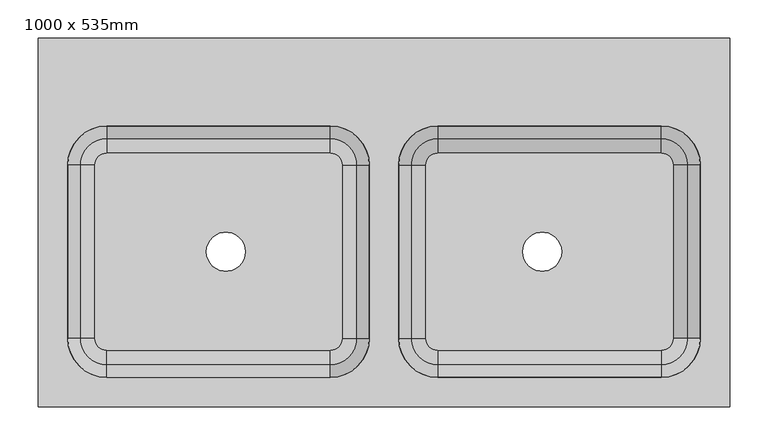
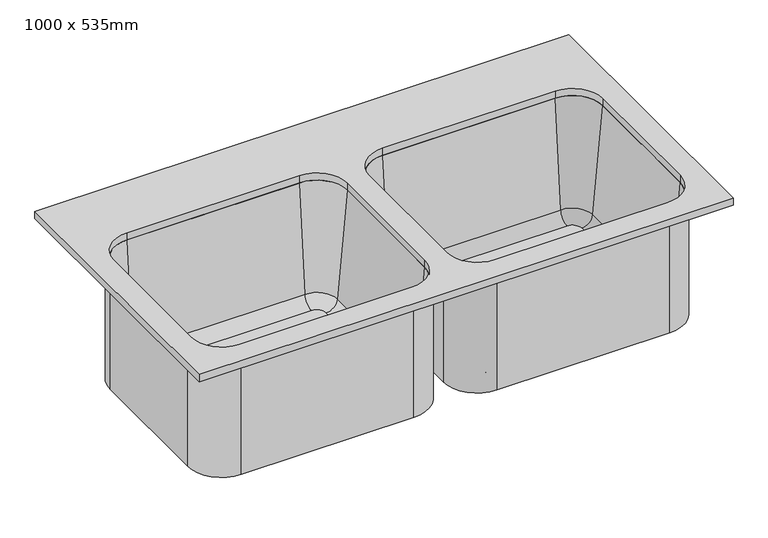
"""IFC4 building model written with IfcOpenShell, lengths in millimetres: flow terminal geometry, Lavandino  - Doppio : 1000 x 535mm."""

from ifc_helpers import new_model, si_unit, point, frame, frame_2d, origin, place, context, project, spatial, polyline, circle_curve, ellipse_curve, trimmed, segment, composite_curve, outline, extrude, source, transform, mapped, element, save
from ifc_brep_helpers import plane_surface, cylinder_surface, revolved_surface, advanced_brep


def flow_terminal_1000_x_535mm_04726dff(model_context):
    return source(origin(), model_context, "Body", "SolidModel", [
        advanced_brep(
        [(376.7892279, 92.5338193, 693.625), (85.5392406, 92.5338193, 693.625), (70.2508224, 77.2454011, 693.625), (70.2508224, -148.7545989, 693.625), (85.5392406, -164.0430171, 693.625), (376.7892406, -164.0430171, 693.625), (392.0776588, -148.7545989, 693.625), (392.0776588, 77.2454011, 693.625), (196.2392406, -35.7545989, 693.625), (247.0392406, -35.7545989, 693.625), (28.3892406, 77.2454011, 684.1), (85.5392406, 134.3954011, 684.1), (376.7892406, 134.3954011, 684.1), (433.9392406, 77.2454011, 684.1), (433.9392406, -148.7545989, 684.1), (376.7892406, -205.9045989, 684.1), (85.5392406, -205.9045989, 684.1), (28.3892406, -148.7545989, 684.1), (196.2392406, -35.7545989, 684.1), (247.0392406, -35.7545989, 684.1), (34.7392406, 77.2454011, 900.0), (85.5392406, 128.0454011, 900.0), (85.5392406, 134.3954011, 900.0), (28.3892406, 77.2454011, 900.0), (51.2733134, 77.2454011, 711.0146831), (85.5392406, 111.5113283, 711.0146831), (28.3892406, -148.7545989, 900.0), (34.7392406, -148.7545989, 900.0), (51.2733134, -148.7545989, 711.0146831), (85.5392406, -205.9045989, 900.0), (85.5392406, -199.5545989, 900.0), (85.5392406, -183.0205261, 711.0146831), (376.7892406, -205.9045989, 900.0), (376.7892406, -199.5545989, 900.0), (376.7892406, -183.0205261, 711.0146831), (433.9392406, -148.7545989, 900.0), (427.5892406, -148.7545989, 900.0), (411.0551678, -148.7545989, 711.0146831), (433.9392406, 77.2454011, 900.0), (427.5892406, 77.2454011, 900.0), (411.0551678, 77.2454011, 711.0146831), (376.7892406, 134.3954011, 900.0), (376.7892406, 128.0454011, 900.0), (376.7892406, 111.5113283, 711.0146831)],
        [
            (0, 1),
            (1, 2, circle_curve(frame((85.5392406, 77.2454011, 693.625), z_axis=(0.0, 0.0, 1.0), x_axis=(0.0, 1.0, 0.0)), 15.2884182)),
            (2, 3),
            (3, 4, circle_curve(frame((85.5392406, -148.7545989, 693.625), z_axis=(0.0, 0.0, 1.0), x_axis=(-1.0, 0.0, 0.0)), 15.2884182)),
            (4, 5),
            (5, 6, circle_curve(frame((376.7892406, -148.7545989, 693.625), z_axis=(0.0, 0.0, 1.0), x_axis=(0.0, -1.0, 0.0)), 15.2884182)),
            (6, 7),
            (7, 0, circle_curve(frame((376.7892406, 77.2454011, 693.625), z_axis=(0.0, 0.0, 1.0), x_axis=(1.0, 0.0, 0.0)), 15.2884182)),
            (8, 9, circle_curve(frame((221.6392406, -35.7545989, 693.625), z_axis=(0.0, 0.0, -1.0), x_axis=(1.0, 0.0, 0.0)), 25.4)),
            (9, 8, circle_curve(frame((221.6392406, -35.7545989, 693.625), z_axis=(0.0, 0.0, -1.0), x_axis=(1.0, 0.0, 0.0)), 25.4)),
            (10, 11, circle_curve(frame((85.5392406, 77.2454011, 684.1), z_axis=(0.0, 0.0, -1.0), x_axis=(0.0, 1.0, 0.0)), 57.15)),
            (11, 12),
            (12, 13, circle_curve(frame((376.7892406, 77.2454011, 684.1), z_axis=(0.0, 0.0, -1.0), x_axis=(1.0, 0.0, 0.0)), 57.15)),
            (13, 14),
            (14, 15, circle_curve(frame((376.7892406, -148.7545989, 684.1), z_axis=(0.0, 0.0, -1.0), x_axis=(0.0, -1.0, 0.0)), 57.15)),
            (15, 16),
            (16, 17, circle_curve(frame((85.5392406, -148.7545989, 684.1), z_axis=(0.0, 0.0, -1.0), x_axis=(-1.0, 0.0, 0.0)), 57.15)),
            (17, 10),
            (18, 19, circle_curve(frame((221.6392406, -35.7545989, 684.1), z_axis=(0.0, 0.0, 1.0), x_axis=(1.0, 0.0, 0.0)), 25.4)),
            (19, 18, circle_curve(frame((221.6392406, -35.7545989, 684.1), z_axis=(0.0, 0.0, 1.0), x_axis=(1.0, 0.0, 0.0)), 25.4)),
            (8, 18),
            (19, 9),
            (20, 21, circle_curve(frame((85.5392406, 77.2454011, 900.0), z_axis=(0.0, 0.0, -1.0), x_axis=(0.0, 1.0, 0.0)), 50.8)),
            (21, 22),
            (22, 23, circle_curve(frame((85.5392406, 77.2454011, 900.0), z_axis=(0.0, 0.0, 1.0), x_axis=(0.0, 1.0, 0.0)), 57.15)),
            (23, 20),
            (20, 24),
            (24, 25, circle_curve(frame((85.5392406, 77.2454011, 711.0146831), z_axis=(0.0, 0.0, -1.0), x_axis=(0.0, 1.0, 0.0)), 34.2659272)),
            (25, 21),
            (24, 2, circle_curve(frame((70.2508224, 77.2454011, 712.675), z_axis=(0.0, -1.0, 0.0), x_axis=(1.0, 0.0, 0.0)), 19.05)),
            (1, 25, circle_curve(frame((85.5392406, 92.5338193, 712.675), z_axis=(1.0, 0.0, 0.0), x_axis=(0.0, -1.0, 0.0)), 19.05)),
            (22, 11),
            (10, 23),
            (23, 26),
            (26, 27),
            (27, 20),
            (27, 28),
            (28, 24),
            (28, 3, circle_curve(frame((70.2508224, -148.7545989, 712.675), z_axis=(0.0, -1.0, 0.0), x_axis=(1.0, 0.0, 0.0)), 19.05)),
            (17, 26),
            (26, 29, circle_curve(frame((85.5392406, -148.7545989, 900.0), z_axis=(0.0, 0.0, 1.0), x_axis=(-1.0, 0.0, 0.0)), 57.15)),
            (29, 30),
            (30, 27, circle_curve(frame((85.5392406, -148.7545989, 900.0), z_axis=(0.0, 0.0, -1.0), x_axis=(-1.0, 0.0, 0.0)), 50.8)),
            (30, 31),
            (31, 28, circle_curve(frame((85.5392406, -148.7545989, 711.0146831), z_axis=(0.0, 0.0, -1.0), x_axis=(-1.0, 0.0, 0.0)), 34.2659272)),
            (31, 4, circle_curve(frame((85.5392406, -164.0430171, 712.675), z_axis=(1.0, 0.0, 0.0), x_axis=(0.0, 1.0, 0.0)), 19.05)),
            (16, 29),
            (29, 32),
            (32, 33),
            (33, 30),
            (33, 34),
            (34, 31),
            (34, 5, circle_curve(frame((376.7892406, -164.0430171, 712.675), z_axis=(1.0, 0.0, 0.0), x_axis=(0.0, 1.0, 0.0)), 19.05)),
            (15, 32),
            (32, 35, circle_curve(frame((376.7892406, -148.7545989, 900.0), z_axis=(0.0, 0.0, 1.0), x_axis=(0.0, -1.0, 0.0)), 57.15)),
            (35, 36),
            (36, 33, circle_curve(frame((376.7892406, -148.7545989, 900.0), z_axis=(0.0, 0.0, -1.0), x_axis=(0.0, -1.0, 0.0)), 50.8)),
            (36, 37),
            (37, 34, circle_curve(frame((376.7892406, -148.7545989, 711.0146831), z_axis=(0.0, 0.0, -1.0), x_axis=(0.0, -1.0, 0.0)), 34.2659272)),
            (37, 6, circle_curve(frame((392.0776588, -148.7545989, 712.675), z_axis=(0.0, 1.0, 0.0), x_axis=(-1.0, 0.0, 0.0)), 19.05)),
            (14, 35),
            (35, 38),
            (38, 39),
            (39, 36),
            (39, 40),
            (40, 37),
            (40, 7, circle_curve(frame((392.0776588, 77.2454011, 712.675), z_axis=(0.0, 1.0, 0.0), x_axis=(-1.0, 0.0, 0.0)), 19.05)),
            (13, 38),
            (38, 41, circle_curve(frame((376.7892406, 77.2454011, 900.0), z_axis=(0.0, 0.0, 1.0), x_axis=(1.0, 0.0, 0.0)), 57.15)),
            (41, 42),
            (42, 39, circle_curve(frame((376.7892406, 77.2454011, 900.0), z_axis=(0.0, 0.0, -1.0), x_axis=(1.0, 0.0, 0.0)), 50.8)),
            (42, 43),
            (43, 40, circle_curve(frame((376.7892406, 77.2454011, 711.0146831), z_axis=(0.0, 0.0, -1.0), x_axis=(1.0, 0.0, 0.0)), 34.2659272)),
            (43, 0, circle_curve(frame((376.7892406, 92.5338193, 712.675), z_axis=(-1.0, 0.0, 0.0), x_axis=(0.0, -1.0, 0.0)), 19.05)),
            (12, 41),
            (21, 42),
            (41, 22),
            (25, 43),
        ],
        [
            plane_surface(frame((85.5392406, 92.5338193, 693.625), z_axis=(0.0, 0.0, 1.0), x_axis=(-1.0, 0.0, 0.0))),
            plane_surface(frame((85.5392406, 92.5338193, 684.1), z_axis=(0.0, 0.0, -1.0), x_axis=(1.0, 0.0, 0.0))),
            revolved_surface(polyline([(247.0392406, -35.7545989, 684.1), (247.0392406, -35.7545989, 693.625)]), (221.6392406, -35.7545989, 0.0), (0.0, 0.0, -1.0)),
            plane_surface(frame((85.5392406, 77.2454011, 900.0), z_axis=(0.0, 0.0, 1.0), x_axis=(0.0, 1.0, 0.0))),
            revolved_surface(polyline([(85.5392406, 128.0454011, 900.0), (85.5392406, 111.5113283, 711.0146831)]), (85.5392406, 77.2454011, 0.0), (0.0, 0.0, 1.0)),
            revolved_surface(trimmed(ellipse_curve(frame((85.5392406, 92.5338193, 712.675), z_axis=(-1.0, 0.0, 0.0), x_axis=(0.0, -1.0, 0.0)), 19.05, 19.05), [point((85.5392406, 111.5113283, 711.0146831))], [point((85.5392406, 92.5338193, 693.625))], True, "CARTESIAN"), (85.5392406, 77.2454011, 0.0), (0.0, 0.0, 1.0)),
            cylinder_surface(frame((85.5392406, 77.2454011, 0.0), z_axis=(0.0, 0.0, 1.0), x_axis=(0.0, 1.0, 0.0)), 57.15),
            plane_surface(frame((28.3892406, 77.2454011, 900.0), z_axis=(0.0, 0.0, 1.0), x_axis=(0.0, -1.0, 0.0))),
            plane_surface(frame((34.7392406, 77.2454011, 900.0), z_axis=(0.996194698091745, 0.0, 0.08715574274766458), x_axis=(0.0, -1.0, 0.0))),
            revolved_surface(polyline([(89.3008224, -148.75459890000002, 712.675), (89.3008224, 77.2454011, 712.675)]), (70.2508224, 77.2454011, 712.675), (0.0, -1.0, 0.0)),
            plane_surface(frame((28.3892406, 77.2454011, 684.1), z_axis=(-1.0, 0.0, 0.0), x_axis=(0.0, -1.0, 0.0))),
            plane_surface(frame((85.5392406, -148.7545989, 900.0), z_axis=(0.0, 0.0, 1.0), x_axis=(-1.0, 0.0, 0.0))),
            revolved_surface(polyline([(34.7392406, -148.7545989, 900.0), (51.2733134, -148.7545989, 711.0146831)]), (85.5392406, -148.7545989, 0.0), (0.0, 0.0, 1.0)),
            revolved_surface(trimmed(ellipse_curve(frame((70.2508224, -148.7545989, 712.675), z_axis=(0.0, -1.0, 0.0), x_axis=(1.0, 0.0, 0.0)), 19.05, 19.05), [point((51.2733134, -148.7545989, 711.0146831))], [point((70.2508224, -148.7545989, 693.625))], True, "CARTESIAN"), (85.5392406, -148.7545989, 0.0), (0.0, 0.0, 1.0)),
            cylinder_surface(frame((85.5392406, -148.7545989, 0.0), z_axis=(0.0, 0.0, 1.0), x_axis=(-1.0, 0.0, 0.0)), 57.15),
            plane_surface(frame((85.5392406, -205.9045989, 900.0), z_axis=(0.0, 0.0, 1.0), x_axis=(1.0, 0.0, 0.0))),
            plane_surface(frame((85.5392406, -199.5545989, 900.0), z_axis=(0.0, 0.996194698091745, 0.08715574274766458), x_axis=(1.0, 0.0, 0.0))),
            revolved_surface(polyline([(376.78924059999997, -144.99301709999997, 712.675), (85.5392406, -144.99301709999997, 712.675)]), (85.5392406, -164.0430171, 712.675), (1.0, 0.0, 0.0)),
            plane_surface(frame((85.5392406, -205.9045989, 684.1), z_axis=(0.0, -1.0, 0.0), x_axis=(1.0, 0.0, 0.0))),
            plane_surface(frame((376.7892406, -148.7545989, 900.0), z_axis=(0.0, 0.0, 1.0), x_axis=(0.0, -1.0, 0.0))),
            revolved_surface(polyline([(376.7892406, -199.5545989, 900.0), (376.7892406, -183.0205261, 711.0146831)]), (376.7892406, -148.7545989, 0.0), (0.0, 0.0, 1.0)),
            revolved_surface(trimmed(ellipse_curve(frame((376.7892406, -164.0430171, 712.675), z_axis=(1.0, 0.0, 0.0), x_axis=(0.0, 1.0, 0.0)), 19.05, 19.05), [point((376.7892406, -183.0205261, 711.0146831))], [point((376.7892406, -164.0430171, 693.625))], True, "CARTESIAN"), (376.7892406, -148.7545989, 0.0), (0.0, 0.0, 1.0)),
            cylinder_surface(frame((376.7892406, -148.7545989, 0.0), z_axis=(0.0, 0.0, 1.0), x_axis=(0.0, -1.0, 0.0)), 57.15),
            plane_surface(frame((433.9392406, -148.7545989, 900.0), z_axis=(0.0, 0.0, 1.0), x_axis=(0.0, 1.0, 0.0))),
            plane_surface(frame((427.5892406, -148.7545989, 900.0), z_axis=(-0.996194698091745, 0.0, 0.08715574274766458), x_axis=(0.0, 1.0, 0.0))),
            revolved_surface(polyline([(373.0276588, 77.24540110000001, 712.675), (373.0276588, -148.7545989, 712.675)]), (392.0776588, -148.7545989, 712.675), (0.0, 1.0, 0.0)),
            plane_surface(frame((433.9392406, -148.7545989, 684.1), z_axis=(1.0, 0.0, 0.0), x_axis=(0.0, 1.0, 0.0))),
            plane_surface(frame((376.7892406, 77.2454011, 900.0), z_axis=(0.0, 0.0, 1.0), x_axis=(1.0, 0.0, 0.0))),
            revolved_surface(polyline([(427.5892406, 77.2454011, 900.0), (411.0551678, 77.2454011, 711.0146831)]), (376.7892406, 77.2454011, 0.0), (0.0, 0.0, 1.0)),
            revolved_surface(trimmed(ellipse_curve(frame((392.0776588, 77.2454011, 712.675), z_axis=(0.0, 1.0, 0.0), x_axis=(-1.0, 0.0, 0.0)), 19.05, 19.05), [point((411.0551678, 77.2454011, 711.0146831))], [point((392.0776588, 77.2454011, 693.625))], True, "CARTESIAN"), (376.7892406, 77.2454011, 0.0), (0.0, 0.0, 1.0)),
            cylinder_surface(frame((376.7892406, 77.2454011, 0.0), z_axis=(0.0, 0.0, 1.0), x_axis=(1.0, 0.0, 0.0)), 57.15),
            plane_surface(frame((376.7892406, 134.3954011, 900.0), z_axis=(0.0, 0.0, 1.0), x_axis=(-1.0, 0.0, 0.0))),
            plane_surface(frame((376.7892406, 128.0454011, 900.0), z_axis=(0.0, -0.996194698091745, 0.08715574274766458), x_axis=(-1.0, 0.0, 0.0))),
            revolved_surface(polyline([(85.53924060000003, 73.48381930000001, 712.675), (376.7892406, 73.48381930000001, 712.675)]), (376.7892406, 92.5338193, 712.675), (-1.0, 0.0, 0.0)),
            plane_surface(frame((376.7892406, 134.3954011, 684.1), z_axis=(0.0, 1.0, 0.0), x_axis=(-1.0, 0.0, 0.0))),
        ],
        [
            (0, [[1, 2, 3, 4, 5, 6, 7, 8], [9, 10]]),
            (1, [[11, 12, 13, 14, 15, 16, 17, 18], [19, 20]]),
            (2, [[-9, 21, -20, 22]]),
            (2, [[-10, -22, -19, -21]]),
            (3, [[23, 24, 25, 26]]),
            (4, [[-23, 27, 28, 29]]),
            (5, [[-28, 30, -2, 31]]),
            (6, [[-25, 32, -11, 33]]),
            (7, [[-26, 34, 35, 36]]),
            (8, [[-27, -36, 37, 38]]),
            (9, [[-30, -38, 39, -3]]),
            (10, [[-33, -18, 40, -34]]),
            (11, [[-35, 41, 42, 43]]),
            (12, [[-37, -43, 44, 45]]),
            (13, [[-39, -45, 46, -4]]),
            (14, [[-40, -17, 47, -41]]),
            (15, [[-42, 48, 49, 50]]),
            (16, [[-44, -50, 51, 52]]),
            (17, [[-46, -52, 53, -5]]),
            (18, [[-47, -16, 54, -48]]),
            (19, [[-49, 55, 56, 57]]),
            (20, [[-51, -57, 58, 59]]),
            (21, [[-53, -59, 60, -6]]),
            (22, [[-54, -15, 61, -55]]),
            (23, [[-56, 62, 63, 64]]),
            (24, [[-58, -64, 65, 66]]),
            (25, [[-60, -66, 67, -7]]),
            (26, [[-61, -14, 68, -62]]),
            (27, [[-63, 69, 70, 71]]),
            (28, [[-65, -71, 72, 73]]),
            (29, [[-67, -73, 74, -8]]),
            (30, [[-68, -13, 75, -69]]),
            (31, [[-24, 76, -70, 77]]),
            (32, [[-29, 78, -72, -76]]),
            (33, [[-31, -1, -74, -78]]),
            (34, [[-32, -77, -75, -12]]),
        ],
    ),
        advanced_brep(
        [(-38.8723412, 77.2454011, 693.625), (-54.1607594, 92.5338193, 693.625), (-345.4107594, 92.5338193, 693.625), (-360.6991776, 77.2454011, 693.625), (-360.6991776, -148.7545989, 693.625), (-345.4107594, -164.0430171, 693.625), (-54.1607594, -164.0430171, 693.625), (-38.8723412, -148.7545989, 693.625), (-215.6607594, -35.7545989, 693.625), (-164.8607594, -35.7545989, 693.625), (-402.5607594, 77.2454011, 684.1), (-345.4107594, 134.3954011, 684.1), (-54.1607594, 134.3954011, 684.1), (2.9892406, 77.2454011, 684.1), (2.9892406, -148.7545989, 684.1), (-54.1607594, -205.9045989, 684.1), (-345.4107594, -205.9045989, 684.1), (-402.5607594, -148.7545989, 684.1), (-215.6607594, -35.7545989, 684.1), (-164.8607594, -35.7545989, 684.1), (-54.1607594, 134.3954011, 900.0), (2.9892406, 77.2454011, 900.0), (-19.8948322, 77.2454011, 711.0146831), (-54.1607594, 111.5113283, 711.0146831), (-3.3607594, 77.2454011, 900.0), (-54.1607594, 128.0454011, 900.0), (2.9892406, -148.7545989, 900.0), (-19.8948322, -148.7545989, 711.0146831), (-3.3607594, -148.7545989, 900.0), (-54.1607594, -205.9045989, 900.0), (-54.1607594, -183.0205261, 711.0146831), (-54.1607594, -199.5545989, 900.0), (-345.4107594, -205.9045989, 900.0), (-345.4107594, -183.0205261, 711.0146831), (-345.4107594, -199.5545989, 900.0), (-402.5607594, -148.7545989, 900.0), (-379.6766866, -148.7545989, 711.0146831), (-396.2107594, -148.7545989, 900.0), (-402.5607594, 77.2454011, 900.0), (-379.6766866, 77.2454011, 711.0146831), (-396.2107594, 77.2454011, 900.0), (-345.4107594, 134.3954011, 900.0), (-345.4107594, 111.5113283, 711.0146831), (-345.4107594, 128.0454011, 900.0)],
        [
            (0, 1, circle_curve(frame((-54.1607594, 77.2454011, 693.625), z_axis=(0.0, 0.0, 1.0), x_axis=(0.0, 1.0, 0.0)), 15.2884182)),
            (1, 2),
            (2, 3, circle_curve(frame((-345.4107594, 77.2454011, 693.625), z_axis=(0.0, 0.0, 1.0), x_axis=(-1.0, 0.0, 0.0)), 15.2884182)),
            (3, 4),
            (4, 5, circle_curve(frame((-345.4107594, -148.7545989, 693.625), z_axis=(0.0, 0.0, 1.0), x_axis=(0.0, -1.0, 0.0)), 15.2884182)),
            (5, 6),
            (6, 7, circle_curve(frame((-54.1607594, -148.7545989, 693.625), z_axis=(0.0, 0.0, 1.0), x_axis=(1.0, 0.0, 0.0)), 15.2884182)),
            (7, 0),
            (8, 9, circle_curve(frame((-190.2607594, -35.7545989, 693.625), z_axis=(0.0, 0.0, -1.0), x_axis=(1.0, 0.0, 0.0)), 25.4)),
            (9, 8, circle_curve(frame((-190.2607594, -35.7545989, 693.625), z_axis=(0.0, 0.0, -1.0), x_axis=(1.0, 0.0, 0.0)), 25.4)),
            (10, 11, circle_curve(frame((-345.4107594, 77.2454011, 684.1), z_axis=(0.0, 0.0, -1.0), x_axis=(-1.0, 0.0, 0.0)), 57.15)),
            (11, 12),
            (12, 13, circle_curve(frame((-54.1607594, 77.2454011, 684.1), z_axis=(0.0, 0.0, -1.0), x_axis=(0.0, 1.0, 0.0)), 57.15)),
            (13, 14),
            (14, 15, circle_curve(frame((-54.1607594, -148.7545989, 684.1), z_axis=(0.0, 0.0, -1.0), x_axis=(1.0, 0.0, 0.0)), 57.15)),
            (15, 16),
            (16, 17, circle_curve(frame((-345.4107594, -148.7545989, 684.1), z_axis=(0.0, 0.0, -1.0), x_axis=(0.0, -1.0, 0.0)), 57.15)),
            (17, 10),
            (18, 19, circle_curve(frame((-190.2607594, -35.7545989, 684.1), z_axis=(0.0, 0.0, 1.0), x_axis=(1.0, 0.0, 0.0)), 25.4)),
            (19, 18, circle_curve(frame((-190.2607594, -35.7545989, 684.1), z_axis=(0.0, 0.0, 1.0), x_axis=(1.0, 0.0, 0.0)), 25.4)),
            (8, 18),
            (19, 9),
            (12, 20),
            (20, 21, circle_curve(frame((-54.1607594, 77.2454011, 900.0), z_axis=(0.0, 0.0, -1.0), x_axis=(0.0, 1.0, 0.0)), 57.15)),
            (21, 13),
            (0, 22, circle_curve(frame((-38.8723412, 77.2454011, 712.675), z_axis=(0.0, -1.0, 0.0), x_axis=(1.0, 0.0, 0.0)), 19.05)),
            (22, 23, circle_curve(frame((-54.1607594, 77.2454011, 711.0146831), z_axis=(0.0, 0.0, 1.0), x_axis=(0.0, 1.0, 0.0)), 34.2659272)),
            (23, 1, circle_curve(frame((-54.1607594, 92.5338193, 712.675), z_axis=(-1.0, 0.0, 0.0), x_axis=(0.0, 1.0, 0.0)), 19.05)),
            (22, 24),
            (24, 25, circle_curve(frame((-54.1607594, 77.2454011, 900.0), z_axis=(0.0, 0.0, 1.0), x_axis=(0.0, 1.0, 0.0)), 50.8)),
            (25, 23),
            (20, 25),
            (24, 21),
            (21, 26),
            (26, 14),
            (7, 27, circle_curve(frame((-38.8723412, -148.7545989, 712.675), z_axis=(0.0, -1.0, 0.0), x_axis=(1.0, 0.0, 0.0)), 19.05)),
            (27, 22),
            (27, 28),
            (28, 24),
            (28, 26),
            (26, 29, circle_curve(frame((-54.1607594, -148.7545989, 900.0), z_axis=(0.0, 0.0, -1.0), x_axis=(1.0, 0.0, 0.0)), 57.15)),
            (29, 15),
            (6, 30, circle_curve(frame((-54.1607594, -164.0430171, 712.675), z_axis=(-1.0, 0.0, 0.0), x_axis=(0.0, -1.0, 0.0)), 19.05)),
            (30, 27, circle_curve(frame((-54.1607594, -148.7545989, 711.0146831), z_axis=(0.0, 0.0, 1.0), x_axis=(1.0, 0.0, 0.0)), 34.2659272)),
            (30, 31),
            (31, 28, circle_curve(frame((-54.1607594, -148.7545989, 900.0), z_axis=(0.0, 0.0, 1.0), x_axis=(1.0, 0.0, 0.0)), 50.8)),
            (31, 29),
            (29, 32),
            (32, 16),
            (5, 33, circle_curve(frame((-345.4107594, -164.0430171, 712.675), z_axis=(-1.0, 0.0, 0.0), x_axis=(0.0, -1.0, 0.0)), 19.05)),
            (33, 30),
            (33, 34),
            (34, 31),
            (34, 32),
            (32, 35, circle_curve(frame((-345.4107594, -148.7545989, 900.0), z_axis=(0.0, 0.0, -1.0), x_axis=(0.0, -1.0, 0.0)), 57.15)),
            (35, 17),
            (4, 36, circle_curve(frame((-360.6991776, -148.7545989, 712.675), z_axis=(0.0, 1.0, 0.0), x_axis=(-1.0, 0.0, 0.0)), 19.05)),
            (36, 33, circle_curve(frame((-345.4107594, -148.7545989, 711.0146831), z_axis=(0.0, 0.0, 1.0), x_axis=(0.0, -1.0, 0.0)), 34.2659272)),
            (36, 37),
            (37, 34, circle_curve(frame((-345.4107594, -148.7545989, 900.0), z_axis=(0.0, 0.0, 1.0), x_axis=(0.0, -1.0, 0.0)), 50.8)),
            (37, 35),
            (35, 38),
            (38, 10),
            (3, 39, circle_curve(frame((-360.6991776, 77.2454011, 712.675), z_axis=(0.0, 1.0, 0.0), x_axis=(-1.0, 0.0, 0.0)), 19.05)),
            (39, 36),
            (39, 40),
            (40, 37),
            (40, 38),
            (38, 41, circle_curve(frame((-345.4107594, 77.2454011, 900.0), z_axis=(0.0, 0.0, -1.0), x_axis=(-1.0, 0.0, 0.0)), 57.15)),
            (41, 11),
            (2, 42, circle_curve(frame((-345.4107594, 92.5338193, 712.675), z_axis=(1.0, 0.0, 0.0), x_axis=(0.0, 1.0, 0.0)), 19.05)),
            (42, 39, circle_curve(frame((-345.4107594, 77.2454011, 711.0146831), z_axis=(0.0, 0.0, 1.0), x_axis=(-1.0, 0.0, 0.0)), 34.2659272)),
            (42, 43),
            (43, 40, circle_curve(frame((-345.4107594, 77.2454011, 900.0), z_axis=(0.0, 0.0, 1.0), x_axis=(-1.0, 0.0, 0.0)), 50.8)),
            (43, 41),
            (41, 20),
            (23, 42),
            (25, 43),
        ],
        [
            plane_surface(frame((-345.4107594, 89.9454011, 693.625), z_axis=(0.0, 0.0, 1.0), x_axis=(-1.0, 0.0, 0.0))),
            plane_surface(frame((-345.4107594, 89.9454011, 684.1), z_axis=(0.0, 0.0, -1.0), x_axis=(1.0, 0.0, 0.0))),
            revolved_surface(polyline([(-164.8607594, -35.7545989, 684.1), (-164.8607594, -35.7545989, 693.625)]), (-190.2607594, -35.7545989, 0.0), (0.0, 0.0, -1.0)),
            cylinder_surface(frame((-54.1607594, 77.2454011, 0.0), z_axis=(0.0, 0.0, -1.0), x_axis=(0.0, 1.0, 0.0)), 57.15),
            revolved_surface(trimmed(ellipse_curve(frame((-54.1607594, 92.5338193, 712.675), z_axis=(1.0, 0.0, 0.0), x_axis=(0.0, 1.0, 0.0)), 19.05, 19.05), [point((-54.1607594, 92.5338193, 693.625))], [point((-54.1607594, 111.5113283, 711.0146831))], True, "CARTESIAN"), (-54.1607594, 77.2454011, 0.0), (0.0, 0.0, -1.0)),
            revolved_surface(polyline([(-54.1607594, 111.5113283, 711.0146831), (-54.1607594, 128.0454011, 900.0)]), (-54.1607594, 77.2454011, 0.0), (0.0, 0.0, -1.0)),
            plane_surface(frame((-54.1607594, 77.2454011, 900.0), z_axis=(0.0, 0.0, 1.0), x_axis=(0.0, 1.0, 0.0))),
            plane_surface(frame((2.9892406, 77.2454011, 900.0), z_axis=(1.0, 0.0, 0.0), x_axis=(0.0, -1.0, 0.0))),
            revolved_surface(polyline([(-19.8223412, -148.75459890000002, 712.675), (-19.8223412, 77.2454011, 712.675)]), (-38.8723412, 77.2454011, 712.675), (0.0, -1.0, 0.0)),
            plane_surface(frame((-19.8948322, 77.2454011, 711.0146831), z_axis=(-0.996194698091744, 0.0, 0.08715574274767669), x_axis=(0.0, -1.0, 0.0))),
            plane_surface(frame((-3.3607594, 77.2454011, 900.0), z_axis=(0.0, 0.0, 1.0), x_axis=(0.0, -1.0, 0.0))),
            cylinder_surface(frame((-54.1607594, -148.7545989, 0.0), z_axis=(0.0, 0.0, -1.0), x_axis=(1.0, 0.0, 0.0)), 57.15),
            revolved_surface(trimmed(ellipse_curve(frame((-38.8723412, -148.7545989, 712.675), z_axis=(0.0, -1.0, 0.0), x_axis=(1.0, 0.0, 0.0)), 19.05, 19.05), [point((-38.8723412, -148.7545989, 693.625))], [point((-19.8948322, -148.7545989, 711.0146831))], True, "CARTESIAN"), (-54.1607594, -148.7545989, 0.0), (0.0, 0.0, -1.0)),
            revolved_surface(polyline([(-19.8948322, -148.7545989, 711.0146831), (-3.3607594, -148.7545989, 900.0)]), (-54.1607594, -148.7545989, 0.0), (0.0, 0.0, -1.0)),
            plane_surface(frame((-54.1607594, -148.7545989, 900.0), z_axis=(0.0, 0.0, 1.0), x_axis=(1.0, 0.0, 0.0))),
            plane_surface(frame((-54.1607594, -205.9045989, 900.0), z_axis=(0.0, -1.0, 0.0), x_axis=(-1.0, 0.0, 0.0))),
            revolved_surface(polyline([(-345.4107594, -183.0930171, 712.675), (-54.1607594, -183.0930171, 712.675)]), (-54.1607594, -164.0430171, 712.675), (-1.0, 0.0, 0.0)),
            plane_surface(frame((-54.1607594, -183.0205261, 711.0146831), z_axis=(0.0, 0.996194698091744, 0.08715574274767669), x_axis=(-1.0, 0.0, 0.0))),
            plane_surface(frame((-54.1607594, -199.5545989, 900.0), z_axis=(0.0, 0.0, 1.0), x_axis=(-1.0, 0.0, 0.0))),
            cylinder_surface(frame((-345.4107594, -148.7545989, 0.0), z_axis=(0.0, 0.0, -1.0), x_axis=(0.0, -1.0, 0.0)), 57.15),
            revolved_surface(trimmed(ellipse_curve(frame((-345.4107594, -164.0430171, 712.675), z_axis=(-1.0, 0.0, 0.0), x_axis=(0.0, -1.0, 0.0)), 19.05, 19.05), [point((-345.4107594, -164.0430171, 693.625))], [point((-345.4107594, -183.0205261, 711.0146831))], True, "CARTESIAN"), (-345.4107594, -148.7545989, 0.0), (0.0, 0.0, -1.0)),
            revolved_surface(polyline([(-345.4107594, -183.0205261, 711.0146831), (-345.4107594, -199.5545989, 900.0)]), (-345.4107594, -148.7545989, 0.0), (0.0, 0.0, -1.0)),
            plane_surface(frame((-345.4107594, -148.7545989, 900.0), z_axis=(0.0, 0.0, 1.0), x_axis=(0.0, -1.0, 0.0))),
            plane_surface(frame((-402.5607594, -148.7545989, 900.0), z_axis=(-1.0, 0.0, 0.0), x_axis=(0.0, 1.0, 0.0))),
            revolved_surface(polyline([(-379.7491776, 77.24540110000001, 712.675), (-379.7491776, -148.7545989, 712.675)]), (-360.6991776, -148.7545989, 712.675), (0.0, 1.0, 0.0)),
            plane_surface(frame((-379.6766866, -148.7545989, 711.0146831), z_axis=(0.996194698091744, 0.0, 0.08715574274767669), x_axis=(0.0, 1.0, 0.0))),
            plane_surface(frame((-396.2107594, -148.7545989, 900.0), z_axis=(0.0, 0.0, 1.0), x_axis=(0.0, 1.0, 0.0))),
            cylinder_surface(frame((-345.4107594, 77.2454011, 0.0), z_axis=(0.0, 0.0, -1.0), x_axis=(-1.0, 0.0, 0.0)), 57.15),
            revolved_surface(trimmed(ellipse_curve(frame((-360.6991776, 77.2454011, 712.675), z_axis=(0.0, 1.0, 0.0), x_axis=(-1.0, 0.0, 0.0)), 19.05, 19.05), [point((-360.6991776, 77.2454011, 693.625))], [point((-379.6766866, 77.2454011, 711.0146831))], True, "CARTESIAN"), (-345.4107594, 77.2454011, 0.0), (0.0, 0.0, -1.0)),
            revolved_surface(polyline([(-379.6766866, 77.2454011, 711.0146831), (-396.2107594, 77.2454011, 900.0)]), (-345.4107594, 77.2454011, 0.0), (0.0, 0.0, -1.0)),
            plane_surface(frame((-345.4107594, 77.2454011, 900.0), z_axis=(0.0, 0.0, 1.0), x_axis=(-1.0, 0.0, 0.0))),
            plane_surface(frame((-345.4107594, 134.3954011, 900.0), z_axis=(0.0, 1.0, 0.0), x_axis=(1.0, 0.0, 0.0))),
            revolved_surface(polyline([(-54.16075940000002, 111.5838193, 712.675), (-345.4107594, 111.5838193, 712.675)]), (-345.4107594, 92.5338193, 712.675), (1.0, 0.0, 0.0)),
            plane_surface(frame((-345.4107594, 111.5113283, 711.0146831), z_axis=(0.0, -0.996194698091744, 0.08715574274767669), x_axis=(1.0, 0.0, 0.0))),
            plane_surface(frame((-345.4107594, 128.0454011, 900.0), z_axis=(0.0, 0.0, 1.0), x_axis=(1.0, 0.0, 0.0))),
        ],
        [
            (0, [[1, 2, 3, 4, 5, 6, 7, 8], [9, 10]]),
            (1, [[11, 12, 13, 14, 15, 16, 17, 18], [19, 20]]),
            (2, [[-9, 21, -20, 22]]),
            (2, [[-10, -22, -19, -21]]),
            (3, [[-13, 23, 24, 25]]),
            (4, [[-1, 26, 27, 28]]),
            (5, [[-27, 29, 30, 31]]),
            (6, [[-24, 32, -30, 33]]),
            (7, [[-25, 34, 35, -14]]),
            (8, [[-26, -8, 36, 37]]),
            (9, [[-29, -37, 38, 39]]),
            (10, [[-33, -39, 40, -34]]),
            (11, [[-35, 41, 42, -15]]),
            (12, [[-36, -7, 43, 44]]),
            (13, [[-38, -44, 45, 46]]),
            (14, [[-40, -46, 47, -41]]),
            (15, [[-42, 48, 49, -16]]),
            (16, [[-43, -6, 50, 51]]),
            (17, [[-45, -51, 52, 53]]),
            (18, [[-47, -53, 54, -48]]),
            (19, [[-49, 55, 56, -17]]),
            (20, [[-50, -5, 57, 58]]),
            (21, [[-52, -58, 59, 60]]),
            (22, [[-54, -60, 61, -55]]),
            (23, [[-56, 62, 63, -18]]),
            (24, [[-57, -4, 64, 65]]),
            (25, [[-59, -65, 66, 67]]),
            (26, [[-61, -67, 68, -62]]),
            (27, [[-63, 69, 70, -11]]),
            (28, [[-64, -3, 71, 72]]),
            (29, [[-66, -72, 73, 74]]),
            (30, [[-68, -74, 75, -69]]),
            (31, [[-23, -12, -70, 76]]),
            (32, [[-28, 77, -71, -2]]),
            (33, [[-31, 78, -73, -77]]),
            (34, [[-32, -76, -75, -78]]),
        ],
    ),
        extrude(outline(polyline([(465.6892406, 242.3454011), (465.6892406, -237.6545989), (-434.3107594, -237.6545989), (-434.3107594, 242.3454011), (465.6892406, 242.3454011)]), holes=[composite_curve([segment(polyline([(-54.1607594, 128.0454011), (-345.4107594, 128.0454011)]), True, "CONTINUOUS"), segment(trimmed(circle_curve(frame_2d((-345.4107594, 77.2454011)), 50.8), [point((-345.4107594, 128.0454011))], [point((-396.2107594, 77.2454011))], True, "CARTESIAN"), True, "CONTINUOUS"), segment(polyline([(-396.2107594, 77.2454011), (-396.2107594, -148.7545989)]), True, "CONTINUOUS"), segment(trimmed(circle_curve(frame_2d((-345.4107594, -148.7545989)), 50.8), [point((-396.2107594, -148.7545989))], [point((-345.4107594, -199.5545989))], True, "CARTESIAN"), True, "CONTINUOUS"), segment(polyline([(-345.4107594, -199.5545989), (-54.1607594, -199.5545989)]), True, "CONTINUOUS"), segment(trimmed(circle_curve(frame_2d((-54.1607594, -148.7545989)), 50.8), [point((-54.1607594, -199.5545989))], [point((-3.3607594, -148.7545989))], True, "CARTESIAN"), True, "CONTINUOUS"), segment(polyline([(-3.3607594, -148.7545989), (-3.3607594, 77.2454011)]), True, "CONTINUOUS"), segment(trimmed(circle_curve(frame_2d((-54.1607594, 77.2454011)), 50.8), [point((-3.3607594, 77.2454011))], [point((-54.1607594, 128.0454011))], True, "CARTESIAN"), True, "CONTINUOUS")], self_intersect=False), composite_curve([segment(polyline([(85.5392406, -199.5545989), (376.7892406, -199.5545989)]), True, "CONTINUOUS"), segment(trimmed(circle_curve(frame_2d((376.7892406, -148.7545989)), 50.8), [point((376.7892406, -199.5545989))], [point((427.5892406, -148.7545989))], True, "CARTESIAN"), True, "CONTINUOUS"), segment(polyline([(427.5892406, -148.7545989), (427.5892406, 77.2454011)]), True, "CONTINUOUS"), segment(trimmed(circle_curve(frame_2d((376.7892406, 77.2454011)), 50.8), [point((427.5892406, 77.2454011))], [point((376.7892406, 128.0454011))], True, "CARTESIAN"), True, "CONTINUOUS"), segment(polyline([(376.7892406, 128.0454011), (85.5392406, 128.0454011)]), True, "CONTINUOUS"), segment(trimmed(circle_curve(frame_2d((85.5392406, 77.2454011)), 50.8), [point((85.5392406, 128.0454011))], [point((34.7392406, 77.2454011))], True, "CARTESIAN"), True, "CONTINUOUS"), segment(polyline([(34.7392406, 77.2454011), (34.7392406, -148.7545989)]), True, "CONTINUOUS"), segment(trimmed(circle_curve(frame_2d((85.5392406, -148.7545989)), 50.8), [point((34.7392406, -148.7545989))], [point((85.5392406, -199.5545989))], True, "CARTESIAN"), True, "CONTINUOUS")], self_intersect=False)]), frame((0.0, 0.0, 900.0), z_axis=(0.0, 0.0, 1.0), x_axis=(1.0, 0.0, 0.0)), (0.0, 0.0, 1.0), 12.7),
    ])


if __name__ == "__main__":
    model = new_model("IFC4")
    model_context = context("Model", 3, world=origin())
    ifc_project = project(units=[si_unit("LENGTHUNIT", "METRE", prefix="MILLI")], contexts=[model_context])
    site = spatial("IfcSite", under=ifc_project)
    building = spatial("IfcBuilding", under=site)
    placement = place(None, origin())
    flow_terminal_1000_x_535mm_shape = flow_terminal_1000_x_535mm_04726dff(model_context)
    element("IfcFlowTerminal", 1, ObjectType="Lavandino  - Doppio : 1000 x 535mm", at=placement, inside=building, context=model_context, shape_type="MappedRepresentation", body=[
        mapped(flow_terminal_1000_x_535mm_shape, transform((0.0, 0.0, 0.0), x_axis=(1.0, 0.0, 0.0), y_axis=(0.0, 1.0, 0.0), z_axis=(0.0, 0.0, 1.0))),
    ])
    save(model, "model.ifc")
